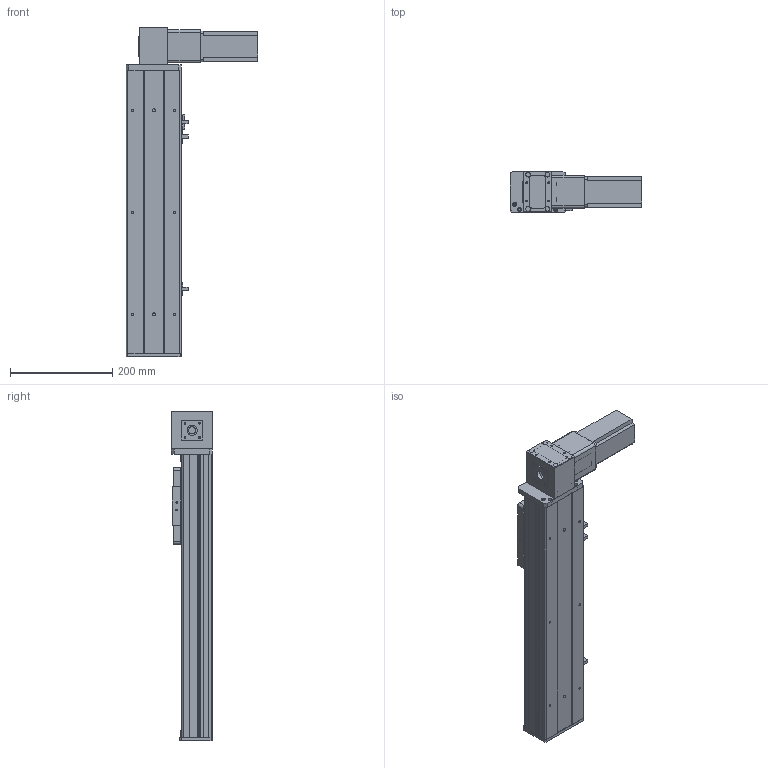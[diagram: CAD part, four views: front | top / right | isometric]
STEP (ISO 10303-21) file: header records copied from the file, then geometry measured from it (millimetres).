
FILE_DESCRIPTION (( 'STEP AP203' ), '1' );
FILE_NAME ('Y10CB-D90-S300-BD-P400W.STEP', '2020-02-17T02:20:01', ( '微软用户' ), ( '微软中国' ), 'SwSTEP 2.0', 'SolidWorks 2017', '' );
FILE_SCHEMA (( 'CONFIG_CONTROL_DESIGN' ));
Length unit declared in the file: millimetre
Products named in the file (16): Y100-135俋离換覜ん--; 0B-源倛裔啣; Y10B--々湍喘謫眊--666; 0B-埴倛裔啣; 0B-薊粣ん眊; 10CB-詩湍-; Y10CB-D90-S300-BD-P400W; Y10CB- 掛极耜裔啣-毀---; Y10C---詩湍揤啣; 0CB-雄赽釱---; 10CB9-掛极; 0Cb-俋欶---; 10CB-耜裔; Y10B-々湍喘謫眊楊擘啣--; Y135C-陔俋离換覜結え-; san松下电机400不带刹车----
Assembly tree (19 placements, depth 2):
  Y10CB-D90-S300-BD-P400W
    0CB-雄赽釱---
    0Cb-俋欶---
    Y10B-々湍喘謫眊楊擘啣--
    san松下电机400不带刹车----
    0B-源倛裔啣
    0B-埴倛裔啣
    10CB-詩湍-
    Y10CB- 掛极耜裔啣-毀---  x2
    Y10C---詩湍揤啣  x2
    10CB9-掛极
    10CB-耜裔
    Y135C-陔俋离換覜結え-
    Y100-135俋离換覜ん--  x3
    Y10B--々湍喘謫眊--666
    0B-薊粣ん眊
Bounding box: 258 x 80.5 x 646 mm (x, y, z)
Volume: 1914923 mm3; surface area: 751457.7 mm2
Topology: 19 solids, 19 shells, 852 faces, 2222 edges, 1460 vertices
Faces by surface type: plane 428, cylinder 400, cone 24
Entity records: 25569 total; most frequent: CARTESIAN_POINT 4312, DIRECTION 4185, ORIENTED_EDGE 3914, EDGE_CURVE 1957, AXIS2_PLACEMENT_3D 1503, VERTEX_POINT 1286, VECTOR 1179, LINE 1179
